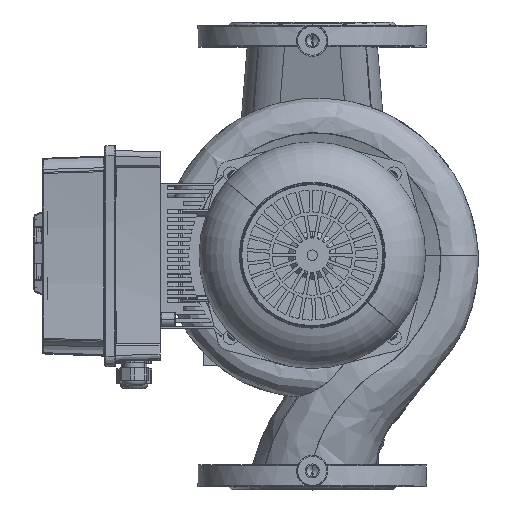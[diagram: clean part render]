
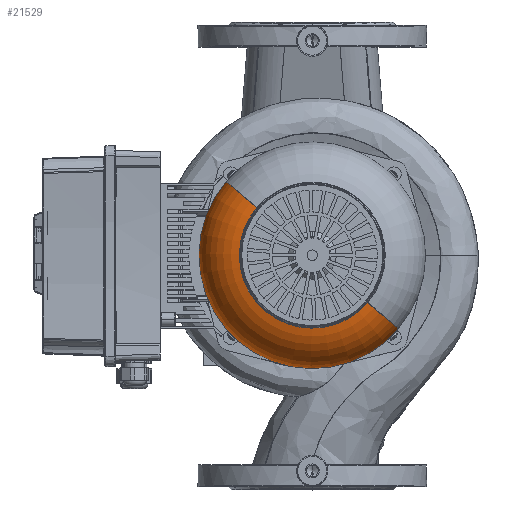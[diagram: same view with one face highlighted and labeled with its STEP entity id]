
A CAD part, top view. The second image highlights one B-rep face of the part: STEP entity #21529.
In plain terms, the highlighted toroidal (fillet/blend) face has major radius 59 mm and minor radius 50 mm.
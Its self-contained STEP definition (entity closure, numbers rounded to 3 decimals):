
#21529=ADVANCED_FACE('NONE',(#47221),#47222,.T.);
#47221=FACE_OUTER_BOUND('',#72621,.T.);
#47222=TOROIDAL_SURFACE('',#72622,59.0,50.0);
#72621=EDGE_LOOP('',(#101793,#101794,#101795,#101796));
#72622=AXIS2_PLACEMENT_3D('',#101797,#101798,#101799);
#101793=ORIENTED_EDGE('',*,*,#123508,.F.);
#101794=ORIENTED_EDGE('',*,*,#123507,.T.);
#101795=ORIENTED_EDGE('',*,*,#123509,.F.);
#101796=ORIENTED_EDGE('',*,*,#123510,.T.);
#101797=CARTESIAN_POINT('',(49.225,0.0,0.0));
#101798=DIRECTION('',(1.0,0.,0.));
#101799=DIRECTION('',(0.,0.,-1.0));
#123507=EDGE_CURVE('NONE',#151947,#151951,#151953,.T.);
#123508=EDGE_CURVE('',#151947,#151954,#151955,.T.);
#123509=EDGE_CURVE('',#151956,#151951,#151957,.T.);
#123510=EDGE_CURVE('NONE',#151956,#151954,#151958,.T.);
#151947=VERTEX_POINT('',#185359);
#151951=VERTEX_POINT('NONE',#185364);
#151953=CIRCLE('',#185367,109.);
#151954=VERTEX_POINT('NONE',#185368);
#151955=CIRCLE('',#185369,50.0);
#151956=VERTEX_POINT('',#185370);
#151957=CIRCLE('',#185371,50.0);
#151958=CIRCLE('',#185372,70.229);
#185359=CARTESIAN_POINT('',(49.225,0.,-109.));
#185364=CARTESIAN_POINT('',(49.225,0.,109.0));
#185367=AXIS2_PLACEMENT_3D('',#236436,#236437,#236438);
#185368=CARTESIAN_POINT('',(97.948,0.,-70.229));
#185369=AXIS2_PLACEMENT_3D('',#236439,#236440,#236441);
#185370=CARTESIAN_POINT('',(97.948,0.,70.229));
#185371=AXIS2_PLACEMENT_3D('',#236442,#236443,#236444);
#185372=AXIS2_PLACEMENT_3D('',#236445,#236446,#236447);
#236436=CARTESIAN_POINT('',(49.225,0.0,0.0));
#236437=DIRECTION('',(1.0,0.,0.));
#236438=DIRECTION('',(0.,0.,-1.0));
#236439=CARTESIAN_POINT('',(49.225,0.,-59.0));
#236440=DIRECTION('',(0.,-1.0,0.));
#236441=DIRECTION('',(0.,0.,-1.0));
#236442=CARTESIAN_POINT('',(49.225,0.,59.0));
#236443=DIRECTION('',(0.,-1.0,0.));
#236444=DIRECTION('',(0.,0.,1.0));
#236445=CARTESIAN_POINT('',(97.948,0.0,0.0));
#236446=DIRECTION('',(-1.0,0.,0.));
#236447=DIRECTION('',(0.,0.,1.0));
